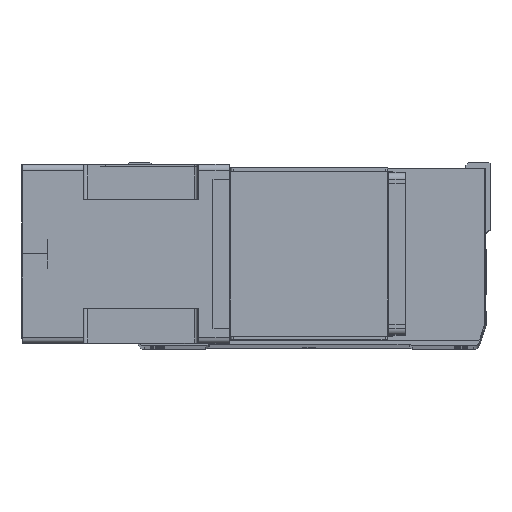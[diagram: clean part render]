
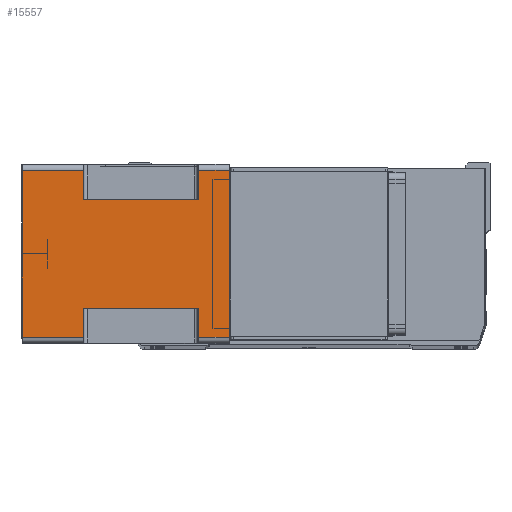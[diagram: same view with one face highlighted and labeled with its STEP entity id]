
A CAD part, top view. The second image highlights one B-rep face of the part: STEP entity #15557.
In plain terms, the highlighted planar face has unit normal (0, 0, 1) as drawn and (-1, 0, 0) by its records, which use the part's own axes.
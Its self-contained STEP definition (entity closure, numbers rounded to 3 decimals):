
#899 = EDGE_CURVE ( 'NONE', #971, #27348, #6854, .T. ) ;
#971 = VERTEX_POINT ( 'NONE', #19671 ) ;
#1445 = VERTEX_POINT ( 'NONE', #44168 ) ;
#2382 = VECTOR ( 'NONE', #9750, 1000. ) ;
#3087 = CARTESIAN_POINT ( 'NONE',  ( -71., 43., -24.5 ) ) ;
#3547 = DIRECTION ( 'NONE',  ( 0., 1., 0. ) ) ;
#4078 = VECTOR ( 'NONE', #35435, 1000. ) ;
#5752 = VECTOR ( 'NONE', #37422, 1000. ) ;
#6233 = CARTESIAN_POINT ( 'NONE',  ( -71., -43., -115.5 ) ) ;
#6295 = EDGE_CURVE ( 'NONE', #9781, #1445, #36828, .T. ) ;
#6638 = CARTESIAN_POINT ( 'NONE',  ( -71., 43., -24.5 ) ) ;
#6770 = EDGE_CURVE ( 'NONE', #13415, #16495, #39756, .T. ) ;
#6854 = LINE ( 'NONE', #23053, #5752 ) ;
#7314 = ORIENTED_EDGE ( 'NONE', *, *, #16742, .T. ) ;
#8247 = VECTOR ( 'NONE', #3547, 1000. ) ;
#8398 = LINE ( 'NONE', #31987, #4078 ) ;
#9162 = LINE ( 'NONE', #44615, #17330 ) ;
#9750 = DIRECTION ( 'NONE',  ( 0., 0., 1. ) ) ;
#9781 = VERTEX_POINT ( 'NONE', #27738 ) ;
#10536 = VERTEX_POINT ( 'NONE', #22244 ) ;
#11564 = PLANE ( 'NONE',  #35074 ) ;
#11596 = LINE ( 'NONE', #16285, #2382 ) ;
#12033 = ORIENTED_EDGE ( 'NONE', *, *, #25593, .F. ) ;
#12203 = VECTOR ( 'NONE', #30852, 1000. ) ;
#12206 = VERTEX_POINT ( 'NONE', #41386 ) ;
#12447 = ORIENTED_EDGE ( 'NONE', *, *, #44870, .T. ) ;
#12842 = EDGE_CURVE ( 'NONE', #971, #25699, #37034, .T. ) ;
#13415 = VERTEX_POINT ( 'NONE', #25272 ) ;
#14597 = CARTESIAN_POINT ( 'NONE',  ( -71., -66., -24.5 ) ) ;
#15292 = ORIENTED_EDGE ( 'NONE', *, *, #899, .F. ) ;
#15557 = ADVANCED_FACE ( 'NONE', ( #33662 ), #11564, .T. ) ;
#16117 = ORIENTED_EDGE ( 'NONE', *, *, #6295, .F. ) ;
#16285 = CARTESIAN_POINT ( 'NONE',  ( -71., 66., -164. ) ) ;
#16495 = VERTEX_POINT ( 'NONE', #14597 ) ;
#16600 = VECTOR ( 'NONE', #29780, 1000. ) ;
#16742 = EDGE_CURVE ( 'NONE', #17390, #27348, #30736, .T. ) ;
#17214 = CARTESIAN_POINT ( 'NONE',  ( -71., -66., -24.5 ) ) ;
#17330 = VECTOR ( 'NONE', #34659, 1000. ) ;
#17390 = VERTEX_POINT ( 'NONE', #41921 ) ;
#17395 = VERTEX_POINT ( 'NONE', #42960 ) ;
#19671 = CARTESIAN_POINT ( 'NONE',  ( -71., 43., -115.5 ) ) ;
#20130 = DIRECTION ( 'NONE',  ( 0., 0., 1. ) ) ;
#20819 = CARTESIAN_POINT ( 'NONE',  ( -71., -43., -115.5 ) ) ;
#20915 = EDGE_CURVE ( 'NONE', #12206, #10536, #31128, .T. ) ;
#21487 = VECTOR ( 'NONE', #41416, 1000. ) ;
#22244 = CARTESIAN_POINT ( 'NONE',  ( -71., -66., -164. ) ) ;
#23053 = CARTESIAN_POINT ( 'NONE',  ( -71., 43., -164. ) ) ;
#23275 = CARTESIAN_POINT ( 'NONE',  ( -71., -66., -164. ) ) ;
#24754 = ORIENTED_EDGE ( 'NONE', *, *, #41249, .T. ) ;
#25272 = CARTESIAN_POINT ( 'NONE',  ( -71., -43., -24.5 ) ) ;
#25593 = EDGE_CURVE ( 'NONE', #12206, #25699, #11596, .T. ) ;
#25699 = VERTEX_POINT ( 'NONE', #44782 ) ;
#25709 = DIRECTION ( 'NONE',  ( -1., 0., 0. ) ) ;
#26134 = ORIENTED_EDGE ( 'NONE', *, *, #20915, .T. ) ;
#26258 = ORIENTED_EDGE ( 'NONE', *, *, #35678, .F. ) ;
#26660 = EDGE_LOOP ( 'NONE', ( #24754, #12447, #28952, #40304, #37368, #16117, #26258, #7314, #15292, #39418, #12033, #26134 ) ) ;
#27348 = VERTEX_POINT ( 'NONE', #6638 ) ;
#27738 = CARTESIAN_POINT ( 'NONE',  ( -71., 66., 0. ) ) ;
#28896 = CARTESIAN_POINT ( 'NONE',  ( -71., -66., -164. ) ) ;
#28922 = VECTOR ( 'NONE', #20130, 1000. ) ;
#28952 = ORIENTED_EDGE ( 'NONE', *, *, #44856, .F. ) ;
#29780 = DIRECTION ( 'NONE',  ( 0., -1., 0. ) ) ;
#30736 = LINE ( 'NONE', #3087, #16600 ) ;
#30852 = DIRECTION ( 'NONE',  ( 0., 1., 0. ) ) ;
#31128 = LINE ( 'NONE', #23275, #39230 ) ;
#31987 = CARTESIAN_POINT ( 'NONE',  ( -71., 66., -164. ) ) ;
#32264 = DIRECTION ( 'NONE',  ( 0., -1., 0. ) ) ;
#33662 = FACE_OUTER_BOUND ( 'NONE', #26660, .T. ) ;
#34348 = CARTESIAN_POINT ( 'NONE',  ( -71., -43., -164. ) ) ;
#34659 = DIRECTION ( 'NONE',  ( 0., 0., 1. ) ) ;
#35074 = AXIS2_PLACEMENT_3D ( 'NONE', #28896, #25709, #32264 ) ;
#35435 = DIRECTION ( 'NONE',  ( 0., 0., 1. ) ) ;
#35678 = EDGE_CURVE ( 'NONE', #17390, #9781, #8398, .T. ) ;
#36681 = LINE ( 'NONE', #20819, #12203 ) ;
#36828 = LINE ( 'NONE', #41216, #42158 ) ;
#37034 = LINE ( 'NONE', #37359, #8247 ) ;
#37263 = CARTESIAN_POINT ( 'NONE',  ( -71., -66., -164. ) ) ;
#37313 = VERTEX_POINT ( 'NONE', #6233 ) ;
#37359 = CARTESIAN_POINT ( 'NONE',  ( -71., -66., -115.5 ) ) ;
#37368 = ORIENTED_EDGE ( 'NONE', *, *, #39644, .T. ) ;
#37422 = DIRECTION ( 'NONE',  ( 0., 0., 1. ) ) ;
#37912 = DIRECTION ( 'NONE',  ( 0., -1., 0. ) ) ;
#38699 = LINE ( 'NONE', #37263, #28922 ) ;
#38731 = VECTOR ( 'NONE', #41159, 1000. ) ;
#39230 = VECTOR ( 'NONE', #40637, 1000. ) ;
#39418 = ORIENTED_EDGE ( 'NONE', *, *, #12842, .T. ) ;
#39644 = EDGE_CURVE ( 'NONE', #16495, #1445, #38699, .T. ) ;
#39756 = LINE ( 'NONE', #17214, #38731 ) ;
#40304 = ORIENTED_EDGE ( 'NONE', *, *, #6770, .T. ) ;
#40637 = DIRECTION ( 'NONE',  ( 0., -1., 0. ) ) ;
#41159 = DIRECTION ( 'NONE',  ( 0., -1., 0. ) ) ;
#41216 = CARTESIAN_POINT ( 'NONE',  ( -71., -66., 0. ) ) ;
#41249 = EDGE_CURVE ( 'NONE', #10536, #17395, #9162, .T. ) ;
#41386 = CARTESIAN_POINT ( 'NONE',  ( -71., 66., -164. ) ) ;
#41416 = DIRECTION ( 'NONE',  ( 0., 0., -1. ) ) ;
#41921 = CARTESIAN_POINT ( 'NONE',  ( -71., 66., -24.5 ) ) ;
#42158 = VECTOR ( 'NONE', #37912, 1000. ) ;
#42960 = CARTESIAN_POINT ( 'NONE',  ( -71., -66., -115.5 ) ) ;
#44168 = CARTESIAN_POINT ( 'NONE',  ( -71., -66., 0. ) ) ;
#44615 = CARTESIAN_POINT ( 'NONE',  ( -71., -66., -164. ) ) ;
#44778 = LINE ( 'NONE', #34348, #21487 ) ;
#44782 = CARTESIAN_POINT ( 'NONE',  ( -71., 66., -115.5 ) ) ;
#44856 = EDGE_CURVE ( 'NONE', #13415, #37313, #44778, .T. ) ;
#44870 = EDGE_CURVE ( 'NONE', #17395, #37313, #36681, .T. ) ;
